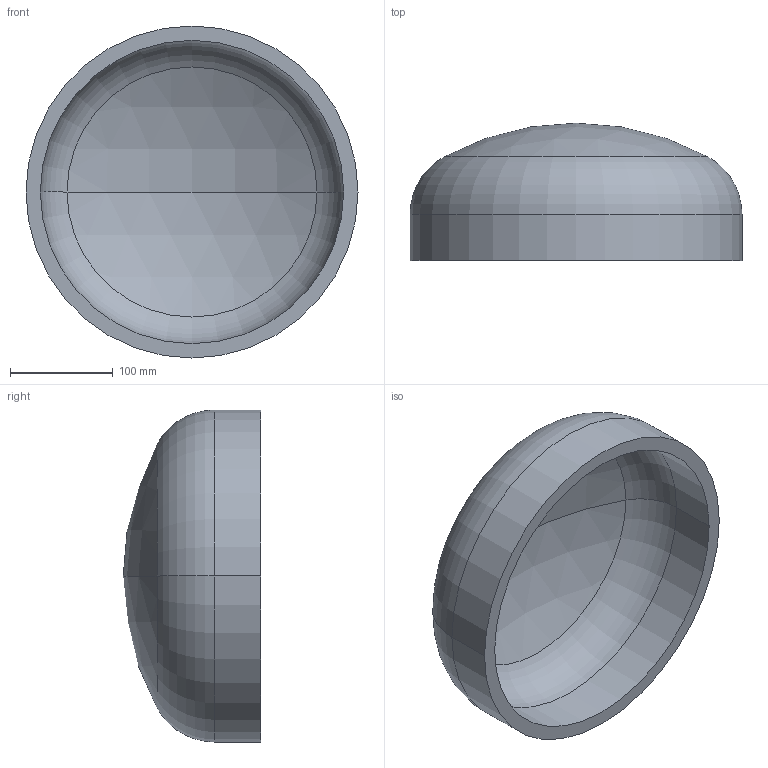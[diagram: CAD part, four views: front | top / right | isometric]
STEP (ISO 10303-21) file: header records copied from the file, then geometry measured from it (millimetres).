
FILE_DESCRIPTION (( 'STEP AP203' ), '1' );
FILE_NAME ('DIN 28013 Korbbogenform_-_Boden DIN 28013 - 323,9 x 45 - I - s=14.step', '2016-07-01T07:44:25', ( '' ), ( '' ), 'SwSTEP 2.0', 'SolidWorks 2013', '' );
FILE_SCHEMA (( 'CONFIG_CONTROL_DESIGN' ));
Length unit declared in the file: millimetre
Products named in the file (1): DIN 28013 Korbbogenform_-_Boden DIN 28013 - 323,9 x 45 - I - s=14
Bounding box: 323.9 x 134.05 x 323.9 mm (x, y, z)
Volume: 2126892.5 mm3; surface area: 317882.3 mm2
Topology: 1 solids, 1 shells, 13 faces, 24 edges, 14 vertices
Faces by surface type: torus 4, cylinder 4, sphere 4, plane 1
Entity records: 407 total; most frequent: DIRECTION 72, CARTESIAN_POINT 52, ORIENTED_EDGE 48, AXIS2_PLACEMENT_3D 34, EDGE_CURVE 24, CIRCLE 20, VERTEX_POINT 14, EDGE_LOOP 14
